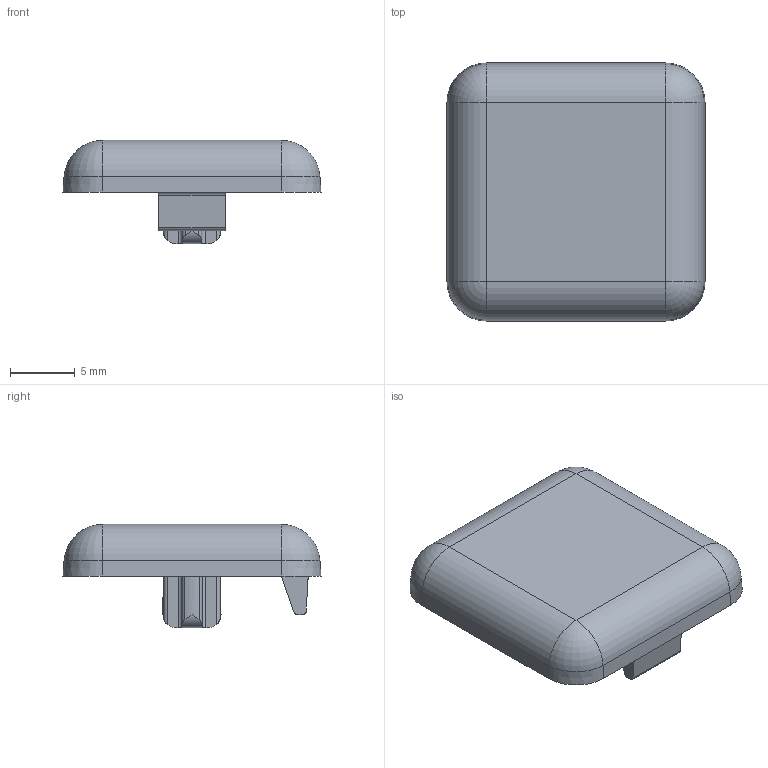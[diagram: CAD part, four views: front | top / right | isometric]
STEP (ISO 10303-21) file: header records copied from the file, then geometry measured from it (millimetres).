
FILE_DESCRIPTION (( 'STEP AP203' ), '1' );
FILE_NAME ('0105AK2020.STEP', '2024-03-06T13:16:27', ( 'Windows-Benutzer' ), ( '' ), 'SwSTEP 2.0', 'SolidWorks 2023', '' );
FILE_SCHEMA (( 'CONFIG_CONTROL_DESIGN' ));
Length unit declared in the file: millimetre
Products named in the file (1): 0105AK2020
Bounding box: 20 x 20 x 8 mm (x, y, z)
Volume: 1019.2 mm3; surface area: 1213.7 mm2
Topology: 1 solids, 1 shells, 98 faces, 261 edges, 163 vertices
Faces by surface type: cylinder 43, plane 35, cone 8, torus 8, bspline 4
Entity records: 3195 total; most frequent: CARTESIAN_POINT 679, DIRECTION 524, ORIENTED_EDGE 514, EDGE_CURVE 257, AXIS2_PLACEMENT_3D 192, VERTEX_POINT 163, VECTOR 140, LINE 140
